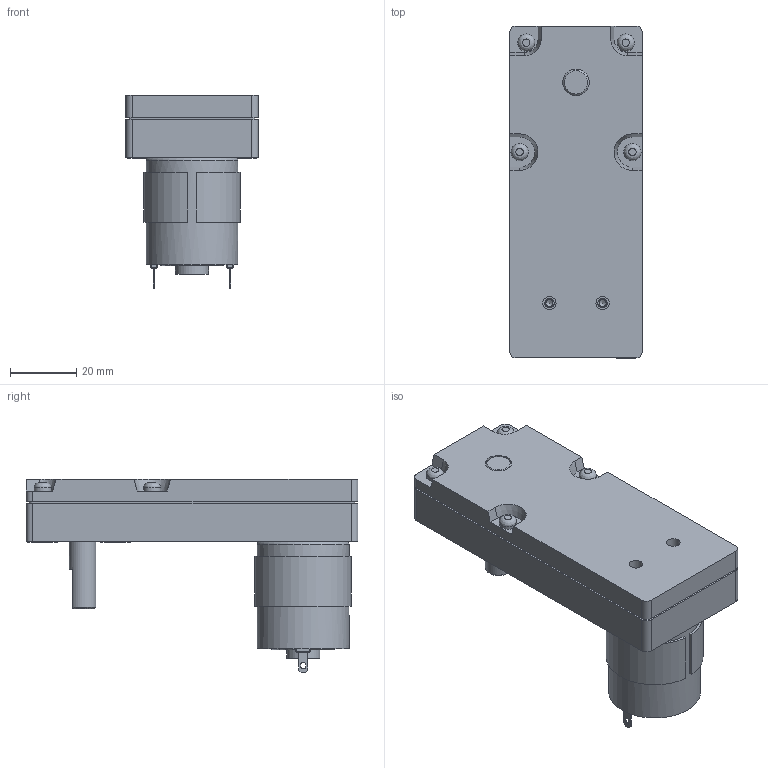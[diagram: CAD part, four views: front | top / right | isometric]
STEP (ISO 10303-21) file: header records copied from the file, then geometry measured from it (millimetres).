
FILE_DESCRIPTION(/* description */ (''),/* implementation_level */ '2;1');
FILE_NAME(/* name */ 'TP-2932#-IG,IM.stp',/* time_stamp */ '2024-01-10T11:04:41+09:00',/* author */ ('user'),/* organization */ (''),/* preprocessor_version */ 'ST-DEVELOPER v19.2',/* originating_system */ 'Autodesk Inventor 2024',/* authorisation */ '');
FILE_SCHEMA (('AUTOMOTIVE_DESIGN { 1 0 10303 214 3 1 1 }'));
Length unit declared in the file: millimetre
Products named in the file (3): TP-2932#-IG,IM-J00-24; ig,im; TP-2932#(RS-365PH)
Assembly tree (2 placements, depth 2):
  TP-2932#-IG,IM-J00-24
    ig,im
    TP-2932#(RS-365PH)
Bounding box: 40 x 100 x 58.2 mm (x, y, z)
Volume: 94168.1 mm3; surface area: 20137.5 mm2
Topology: 2 solids, 2 shells, 214 faces, 470 edges, 303 vertices
Faces by surface type: plane 125, cylinder 69, cone 12, bspline 4, torus 4
Full cylindrical faces by diameter (mm): 2 x3, 2.113 x2, 2.3 x2, 2.5 x5, 2.8 x2, 3.242 x4, 4 x2, 5.2 x4, 6 x4, 8 x2, 9 x6, 10 x3, 12 x1, 14 x1, 19 x1, 26.7 x1, 27.7 x1
Entity records: 6191 total; most frequent: CARTESIAN_POINT 1094, DIRECTION 1070, ORIENTED_EDGE 928, EDGE_CURVE 464, AXIS2_PLACEMENT_3D 393, VERTEX_POINT 303, LINE 284, VECTOR 284
